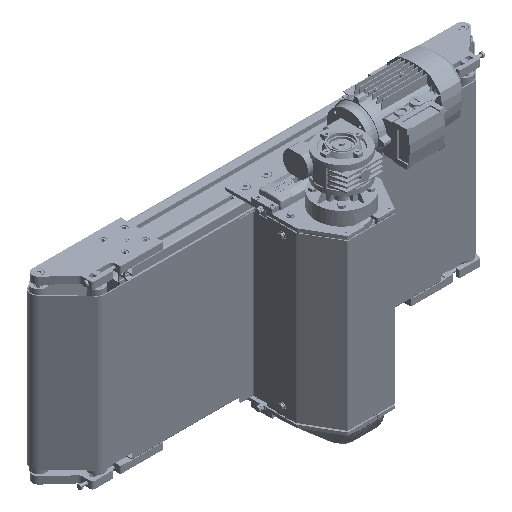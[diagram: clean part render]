
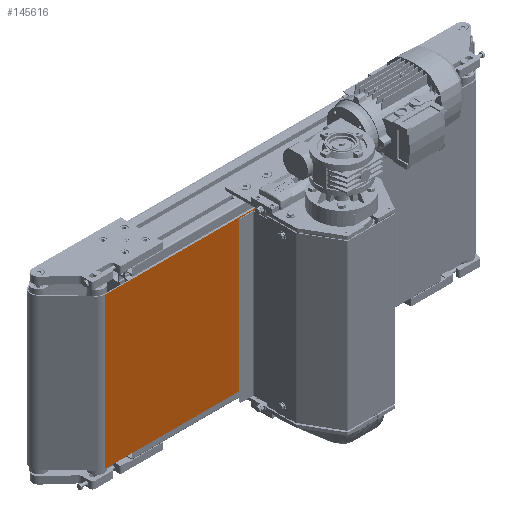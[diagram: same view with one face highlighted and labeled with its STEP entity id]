
A CAD part, isometric view. The second image highlights one B-rep face of the part: STEP entity #145616.
In plain terms, the highlighted planar face has unit normal (0, -1, 0).
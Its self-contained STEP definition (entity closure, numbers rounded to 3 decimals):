
#8214 = LINE ( 'NONE', #56687, #14413 ) ;
#8490 = DIRECTION ( 'NONE',  ( 1., 0., 0. ) ) ;
#14413 = VECTOR ( 'NONE', #58274, 1000. ) ;
#19839 = LINE ( 'NONE', #81018, #93737 ) ;
#25959 = PLANE ( 'NONE',  #65477 ) ;
#31528 = LINE ( 'NONE', #79982, #62877 ) ;
#33642 = VERTEX_POINT ( 'NONE', #68798 ) ;
#42602 = CARTESIAN_POINT ( 'NONE',  ( -390., -49.5, -160. ) ) ;
#44934 = ORIENTED_EDGE ( 'NONE', *, *, #63454, .T. ) ;
#48059 = CARTESIAN_POINT ( 'NONE',  ( -390., -49.5, 160. ) ) ;
#56687 = CARTESIAN_POINT ( 'NONE',  ( -390., -49.5, 160. ) ) ;
#56968 = LINE ( 'NONE', #82360, #79881 ) ;
#58274 = DIRECTION ( 'NONE',  ( 0., 0., -1. ) ) ;
#62877 = VECTOR ( 'NONE', #128514, 1000. ) ;
#63454 = EDGE_CURVE ( 'NONE', #107120, #78068, #8214, .T. ) ;
#65477 = AXIS2_PLACEMENT_3D ( 'NONE', #111778, #136451, #148373 ) ;
#68798 = CARTESIAN_POINT ( 'NONE',  ( -59., -49.5, 160. ) ) ;
#78068 = VERTEX_POINT ( 'NONE', #42602 ) ;
#79881 = VECTOR ( 'NONE', #8490, 1000. ) ;
#79982 = CARTESIAN_POINT ( 'NONE',  ( -390., -49.5, 160. ) ) ;
#81018 = CARTESIAN_POINT ( 'NONE',  ( -59., -49.5, 160. ) ) ;
#82360 = CARTESIAN_POINT ( 'NONE',  ( -390., -49.5, -160. ) ) ;
#86354 = FACE_OUTER_BOUND ( 'NONE', #135465, .T. ) ;
#89037 = ORIENTED_EDGE ( 'NONE', *, *, #120909, .F. ) ;
#92954 = DIRECTION ( 'NONE',  ( 0., 0., -1. ) ) ;
#93737 = VECTOR ( 'NONE', #92954, 1000. ) ;
#94245 = VERTEX_POINT ( 'NONE', #146456 ) ;
#101744 = ORIENTED_EDGE ( 'NONE', *, *, #149214, .F. ) ;
#103021 = EDGE_CURVE ( 'NONE', #78068, #94245, #56968, .T. ) ;
#107120 = VERTEX_POINT ( 'NONE', #48059 ) ;
#111778 = CARTESIAN_POINT ( 'NONE',  ( -390., -49.5, 160. ) ) ;
#112711 = ORIENTED_EDGE ( 'NONE', *, *, #103021, .T. ) ;
#120909 = EDGE_CURVE ( 'NONE', #107120, #33642, #31528, .T. ) ;
#128514 = DIRECTION ( 'NONE',  ( 1., 0., 0. ) ) ;
#135465 = EDGE_LOOP ( 'NONE', ( #112711, #101744, #89037, #44934 ) ) ;
#136451 = DIRECTION ( 'NONE',  ( 0., 1., 0. ) ) ;
#145616 = ADVANCED_FACE ( 'NONE', ( #86354 ), #25959, .F. ) ;
#146456 = CARTESIAN_POINT ( 'NONE',  ( -59., -49.5, -160. ) ) ;
#148373 = DIRECTION ( 'NONE',  ( -1., 0., 0. ) ) ;
#149214 = EDGE_CURVE ( 'NONE', #33642, #94245, #19839, .T. ) ;
